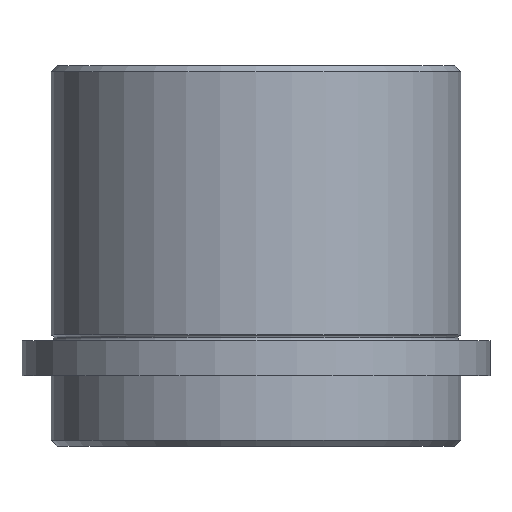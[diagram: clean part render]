
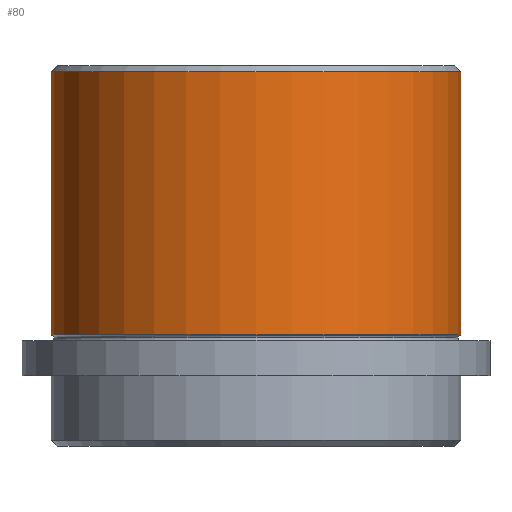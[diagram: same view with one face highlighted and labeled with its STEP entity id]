
A CAD part, front view. The second image highlights one B-rep face of the part: STEP entity #80.
In plain terms, the highlighted cylindrical face has radius 35 mm (diameter 70 mm), a partial arc.
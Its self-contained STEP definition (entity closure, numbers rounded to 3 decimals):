
#42 = VERTEX_POINT ( 'NONE', #716 ) ;
#80 = ADVANCED_FACE ( 'NONE', ( #333 ), #674, .T. ) ;
#86 = EDGE_CURVE ( 'NONE', #669, #42, #861, .T. ) ;
#118 = CARTESIAN_POINT ( 'NONE',  ( 0., 0., -46. ) ) ;
#122 = CARTESIAN_POINT ( 'NONE',  ( -35., 0., -1. ) ) ;
#139 = CARTESIAN_POINT ( 'NONE',  ( 0., 0., -1. ) ) ;
#188 = DIRECTION ( 'NONE',  ( 0., 0., 1. ) ) ;
#191 = CARTESIAN_POINT ( 'NONE',  ( 35., 0., 0. ) ) ;
#205 = LINE ( 'NONE', #803, #579 ) ;
#250 = ORIENTED_EDGE ( 'NONE', *, *, #474, .F. ) ;
#333 = FACE_OUTER_BOUND ( 'NONE', #479, .T. ) ;
#382 = DIRECTION ( 'NONE',  ( 1., 0., 0. ) ) ;
#387 = CARTESIAN_POINT ( 'NONE',  ( -35., 0., -46. ) ) ;
#413 = VERTEX_POINT ( 'NONE', #122 ) ;
#440 = AXIS2_PLACEMENT_3D ( 'NONE', #139, #615, #678 ) ;
#459 = DIRECTION ( 'NONE',  ( 0., 0., 1. ) ) ;
#467 = EDGE_CURVE ( 'NONE', #688, #413, #560, .T. ) ;
#474 = EDGE_CURVE ( 'NONE', #669, #413, #205, .T. ) ;
#479 = EDGE_LOOP ( 'NONE', ( #250, #853, #842, #830 ) ) ;
#480 = VECTOR ( 'NONE', #860, 1000. ) ;
#489 = DIRECTION ( 'NONE',  ( 0., 0., 1. ) ) ;
#528 = LINE ( 'NONE', #191, #480 ) ;
#530 = AXIS2_PLACEMENT_3D ( 'NONE', #118, #188, #594 ) ;
#559 = CARTESIAN_POINT ( 'NONE',  ( 35., 0., -1. ) ) ;
#560 = CIRCLE ( 'NONE', #440, 35. ) ;
#579 = VECTOR ( 'NONE', #489, 1000. ) ;
#594 = DIRECTION ( 'NONE',  ( 1., 0., 0. ) ) ;
#615 = DIRECTION ( 'NONE',  ( 0., 0., -1. ) ) ;
#648 = EDGE_CURVE ( 'NONE', #42, #688, #528, .T. ) ;
#662 = AXIS2_PLACEMENT_3D ( 'NONE', #734, #459, #382 ) ;
#669 = VERTEX_POINT ( 'NONE', #387 ) ;
#674 = CYLINDRICAL_SURFACE ( 'NONE', #662, 35. ) ;
#678 = DIRECTION ( 'NONE',  ( -1., 0., 0. ) ) ;
#688 = VERTEX_POINT ( 'NONE', #559 ) ;
#716 = CARTESIAN_POINT ( 'NONE',  ( 35., 0., -46. ) ) ;
#734 = CARTESIAN_POINT ( 'NONE',  ( 0., 0., 0. ) ) ;
#803 = CARTESIAN_POINT ( 'NONE',  ( -35., 0., 0. ) ) ;
#830 = ORIENTED_EDGE ( 'NONE', *, *, #467, .T. ) ;
#842 = ORIENTED_EDGE ( 'NONE', *, *, #648, .T. ) ;
#853 = ORIENTED_EDGE ( 'NONE', *, *, #86, .T. ) ;
#860 = DIRECTION ( 'NONE',  ( 0., 0., 1. ) ) ;
#861 = CIRCLE ( 'NONE', #530, 35. ) ;
